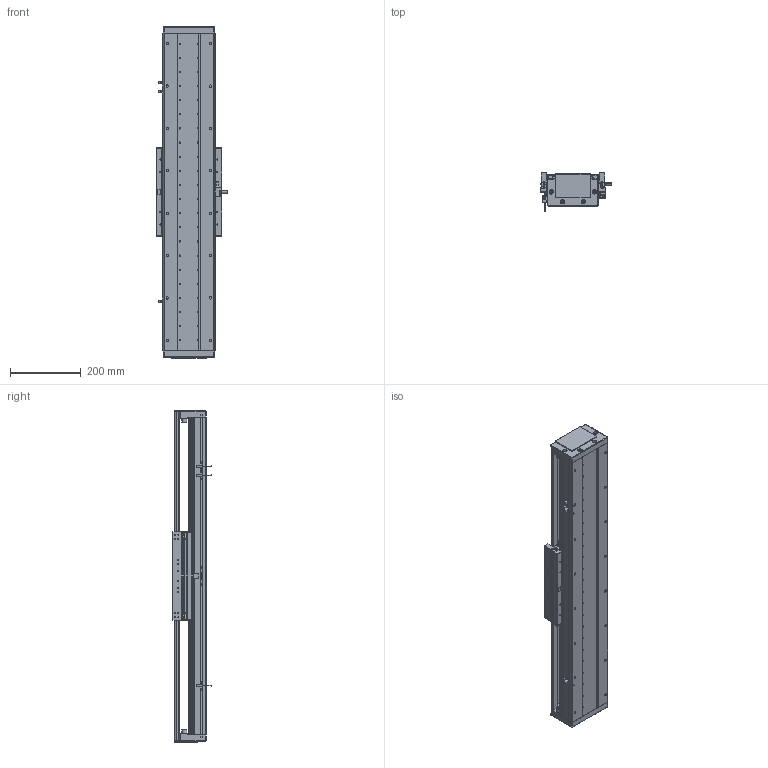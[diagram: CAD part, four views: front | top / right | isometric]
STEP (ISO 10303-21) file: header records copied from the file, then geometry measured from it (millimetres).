
FILE_DESCRIPTION (( 'STEP AP203' ), '1' );
FILE_NAME ('DA-C145-C3-T600-C010-0.2 眻盄萇儂.STEP', '2025-08-14T01:18:14', ( '' ), ( '' ), 'SwSTEP 2.0', 'SolidWorks 2019', '' );
FILE_SCHEMA (( 'CONFIG_CONTROL_DESIGN' ));
Length unit declared in the file: millimetre
Products named in the file (29): 复件 DA95-DB-00  挡板^CU145-W 滚珠滑台; 葩璃 XD-U-02L 棠掑喜^DA-C145-C3-T-C010-0.2; IU-CU145-L 菁釱絳寢; 葩璃 PM-T45^DA-C145-C3-T-C010-0.2; 葩璃 鞠褒情蹟譫 M3^DA-C145-C3-T-C010-0.2; 葩璃 DA145-C3-DP-A-00 菜えA^CU145-W 幗紩賑怢; 葩璃 CKM03-W060-C1C2-TP-0.2^DA-C145-C3-T-C010-0.2; TAY01-M8; IU-CU145-L-00 菁釱(L900); 复件 DA145-C3-YB-A-00 压板A^CU145-W 滚珠滑台; 复件 DA145-C3-YB-B-00 压板B^CU145-W 滚珠滑台; 复件 纯铜油杯 6x6mm^CU145-W 滚珠滑台; 葩璃 DA95-GT-T-00^IU-CU145-L 菁釱絳寢; 复件 半圆头内六角螺钉 M3×6^CU145-W 滚珠滑台; DA-C145-C3-T600-C010-0.2 眻盄萇儂; 复件 DA95-HK-GT-00 滑块钢轨^CU145-W-00 一体化滑动台板; 葩璃 DA145-C3-DP-B-00 菜えB^CU145-W 幗紩賑怢; 葩璃 DA145-T-003-00 裔啣^DA-C145-C3-T-C010-0.2; 葩璃 DA95-HXJ-00 遣喳砎蝶^DA-C145-C3-T-C010-0.2; 复件 内六角平端紧定螺钉 GB.T77-2000 M5×10^CU145-W 滚珠滑台; CU145-W-00 珨极趙賑雄怢啣; 葩璃 DA145-DG-H-N-00 傷裔^DA-C145-C3-T-C010-0.2; 复件 DA95-MFP-01 密封片^CU145-W 滚珠滑台; 葩璃 DMA-010-0.2 黍杅芛^DA-C145-C3-T-C010-0.2; 葩璃 CKMA01-W060-TRL^DA-C145-C3-T-C010-0.2; 复件 DA145-GYP-00 光电感应片^DA-C145-C3-T-C010-0.2; 66245-CU145-HT-W-00 賑雄怢啣(3D芞祧)(00); CU145-W 幗紩賑怢; 复件 DA145-C3-DK-00 挡块^CU145-W 滚珠滑台
Assembly tree (98 placements, depth 4):
  DA-C145-C3-T600-C010-0.2 眻盄萇儂
    IU-CU145-L 菁釱絳寢
      IU-CU145-L-00 菁釱(L900)
      葩璃 DA95-GT-T-00^IU-CU145-L 菁釱絳寢  x4
    CU145-W 幗紩賑怢
      CU145-W-00 珨极趙賑雄怢啣
        66245-CU145-HT-W-00 賑雄怢啣(3D芞祧)(00)
        复件 DA95-HK-GT-00 滑块钢轨^CU145-W-00 一体化滑动台板  x8
      复件 DA95-MFP-01 密封片^CU145-W 滚珠滑台  x8
      复件 DA95-DB-00  挡板^CU145-W 滚珠滑台  x8
      复件 内六角平端紧定螺钉 GB.T77-2000 M5×10^CU145-W 滚珠滑台  x4
      复件 纯铜油杯 6x6mm^CU145-W 滚珠滑台  x4
      复件 半圆头内六角螺钉 M3×6^CU145-W 滚珠滑台  x16
      复件 DA145-C3-DK-00 挡块^CU145-W 滚珠滑台  x4
      葩璃 DA145-C3-DP-B-00 菜えB^CU145-W 幗紩賑怢  x2
      复件 DA145-C3-YB-B-00 压板B^CU145-W 滚珠滑台  x2
      葩璃 DA145-C3-DP-A-00 菜えA^CU145-W 幗紩賑怢  x3
      复件 DA145-C3-YB-A-00 压板A^CU145-W 滚珠滑台  x3
      TAY01-M8  x4
    葩璃 CKMA01-W060-TRL^DA-C145-C3-T-C010-0.2
    葩璃 PM-T45^DA-C145-C3-T-C010-0.2  x3
    葩璃 XD-U-02L 棠掑喜^DA-C145-C3-T-C010-0.2
    葩璃 DA145-DG-H-N-00 傷裔^DA-C145-C3-T-C010-0.2  x2
    葩璃 DA145-T-003-00 裔啣^DA-C145-C3-T-C010-0.2
    葩璃 DA95-HXJ-00 遣喳砎蝶^DA-C145-C3-T-C010-0.2  x4
    复件 DA145-GYP-00 光电感应片^DA-C145-C3-T-C010-0.2
    葩璃 DMA-010-0.2 黍杅芛^DA-C145-C3-T-C010-0.2
    葩璃 CKM03-W060-C1C2-TP-0.2^DA-C145-C3-T-C010-0.2
    葩璃 鞠褒情蹟譫 M3^DA-C145-C3-T-C010-0.2  x8
Bounding box: 203.5 x 108.45 x 940 mm (x, y, z)
Volume: 6455832.4 mm3; surface area: 1856698.1 mm2
Topology: 95 solids, 127 shells, 3910 faces, 10335 edges, 6368 vertices
Faces by surface type: cylinder 1621, plane 1573, cone 626, torus 86, sphere 4
Entity records: 88153 total; most frequent: CARTESIAN_POINT 21684, DIRECTION 13013, ORIENTED_EDGE 12668, EDGE_CURVE 6334, AXIS2_PLACEMENT_3D 4834, VERTEX_POINT 4057, VECTOR 3345, LINE 3345
